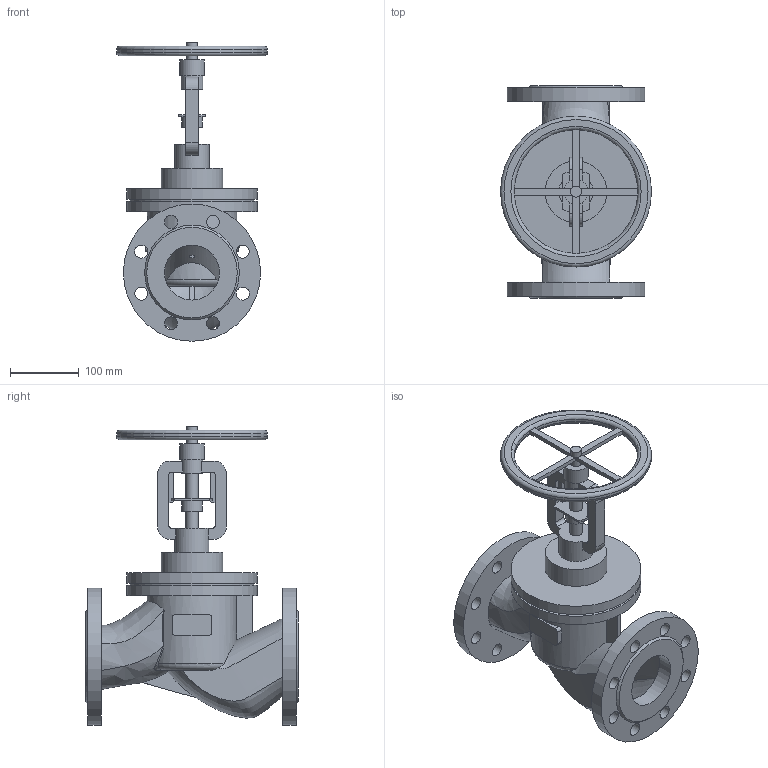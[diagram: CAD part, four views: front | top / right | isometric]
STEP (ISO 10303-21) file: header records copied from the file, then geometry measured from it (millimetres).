
FILE_DESCRIPTION(('STEP AP203'), '1');
FILE_NAME('Êëàïàí çàïîðíî-ðåãóëèðóþùèé BV2F DN80', '2026-09-22T07:52:59', ('Ýíåðãèÿ'), (''), 'ASCON STEP Converter 1.6', 'ASCON Math Kernel', '');
FILE_SCHEMA(('CONFIG_CONTROL_DESIGN'));
Length unit declared in the file: millimetre
Bounding box: 220 x 310 x 435 mm (x, y, z)
Volume: 4559663.2 mm3; surface area: 501368.7 mm2
Topology: 1 solids, 1 shells, 211 faces, 567 edges, 377 vertices
Faces by surface type: plane 109, cylinder 73, bspline 20, torus 7, cone 2
Full cylindrical faces by diameter (mm): 16 x1, 18 x2, 19 x16, 30 x1, 32 x1, 36 x1, 50 x1, 80 x1, 90 x1, 180 x1, 190 x2, 200 x2, 220 x1
Entity records: 22982 total; most frequent: CARTESIAN_POINT 16157, ORIENTED_EDGE 1056, DIRECTION 967, EDGE_CURVE 528, AXIS2_PLACEMENT_3D 378, VERTEX_POINT 377, EDGE_LOOP 313, FACE_BOUND 242
